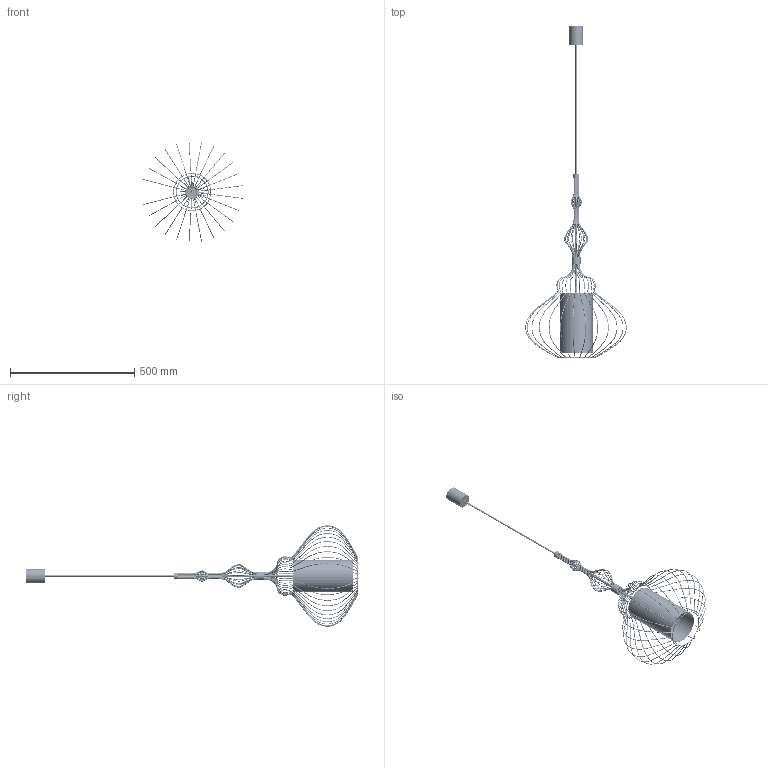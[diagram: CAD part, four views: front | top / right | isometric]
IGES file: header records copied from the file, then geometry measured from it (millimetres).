
Start section: SolidWorks IGES file using analytic representation for surfaces
Global section: file name: G:\_DESIGN\2018_new\Abi\ABI short\ABI_short ca³a lampa.IGS; native system: SolidWorks 2017; preprocessor: SolidWorks 2017; author: DELL; date: 191202.203748; units: millimetre
Bounding box: 407.17 x 1334.84 x 407.97 mm (x, y, z)
Surface area: 510246.3 mm2 (no closed solid volume)
Topology: 0 solids, 0 shells, 1652 faces, 18447 edges, 18444 vertices
Faces by surface type: bspline 1000, revolution 652
